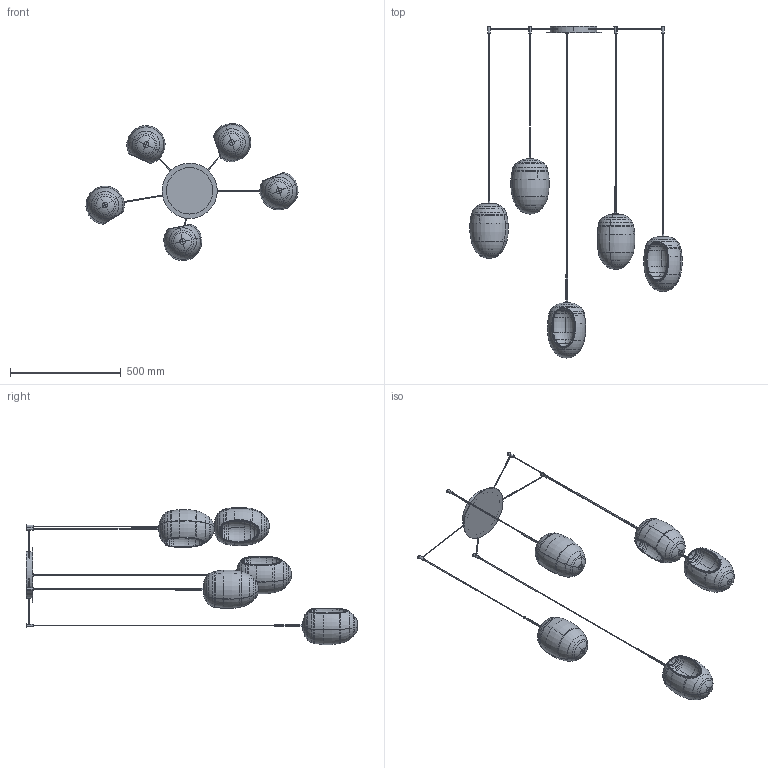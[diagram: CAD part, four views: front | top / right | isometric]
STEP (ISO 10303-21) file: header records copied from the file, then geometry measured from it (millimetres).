
FILE_DESCRIPTION (( 'STEP AP203' ), '1' );
FILE_NAME ('FOS05_5 sospensione.STEP', '2025-05-19T07:12:20', ( '' ), ( '' ), 'SwSTEP 2.0', 'SolidWorks 2022', '' );
FILE_SCHEMA (( 'CONFIG_CONTROL_DESIGN' ));
Length unit declared in the file: millimetre
Products named in the file (14): FOSxx-01-FOS_lampada completa con cavo_H=1950; Porta lampada definitivo FOS; Cavo x Fos_H=1900; FOS parte in vetro; FOSxx-01-FOS_lampada completa con cavo_H=2150; Cavo x Fos_H=1950; FOSxx-01-FOS_lampada completa con cavo_H=1500; Cavo x Fos_H=1800; Cavo x Fos_H=2150; FOSxx-01-FOS_lampada completa con cavo_H=1900; Cavo x Fos_H=1500; FOS05_5 sospensione; FOSxx-01-FOS_rosone+cavi_FOS_5 sospensione (180x90)<A macchina>; FOSxx-01-FOS_lampada completa con cavo_H=1800
Assembly tree (21 placements, depth 3):
  FOS05_5 sospensione
    FOSxx-01-FOS_rosone+cavi_FOS_5 sospensione (180x90)<A macchina>
    FOSxx-01-FOS_lampada completa con cavo_H=1800
      Porta lampada definitivo FOS
      FOS parte in vetro
      Cavo x Fos_H=1800
    FOSxx-01-FOS_lampada completa con cavo_H=1950
      Porta lampada definitivo FOS
      FOS parte in vetro
      Cavo x Fos_H=1950
    FOSxx-01-FOS_lampada completa con cavo_H=1500
      Porta lampada definitivo FOS
      FOS parte in vetro
      Cavo x Fos_H=1500
    FOSxx-01-FOS_lampada completa con cavo_H=2150
      Porta lampada definitivo FOS
      FOS parte in vetro
      Cavo x Fos_H=2150
    FOSxx-01-FOS_lampada completa con cavo_H=1900
      Porta lampada definitivo FOS
      FOS parte in vetro
      Cavo x Fos_H=1900
Bounding box: 958.79 x 1500.54 x 620.36 mm (x, y, z)
Volume: 3094512 mm3; surface area: 1747912.8 mm2
Topology: 51 solids, 51 shells, 1161 faces, 2761 edges, 1708 vertices
Faces by surface type: torus 405, plane 302, cylinder 239, bspline 110, cone 105
Entity records: 17127 total; most frequent: CARTESIAN_POINT 8441, DIRECTION 1540, ORIENTED_EDGE 1418, EDGE_CURVE 709, AXIS2_PLACEMENT_3D 656, VERTEX_POINT 444, CIRCLE 336, EDGE_LOOP 329
